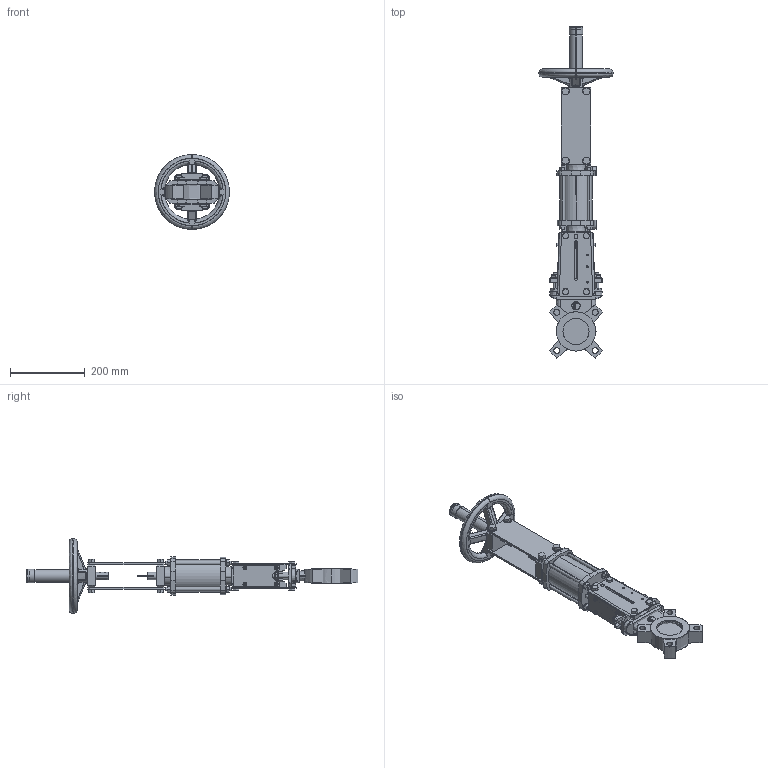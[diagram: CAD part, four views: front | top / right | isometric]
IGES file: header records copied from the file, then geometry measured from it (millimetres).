
Start section: SolidWorks IGES file using analytic representation for surfaces
Global section: file name: D:\part\3D Projects\VG-DOUBLE ACTING(DN50-450)\VG D DN65\VG D DN65.IGS; native system: SolidWorks 2009; preprocessor: SolidWorks 2009; author: zhixin.zheng; date: 100127.102228; units: millimetre
Bounding box: 200 x 887.87 x 200 mm (x, y, z)
Surface area: 606724.7 mm2 (no closed solid volume)
Topology: 0 solids, 0 shells, 1386 faces, 16050 edges, 16050 vertices
Faces by surface type: bspline 848, revolution 538
